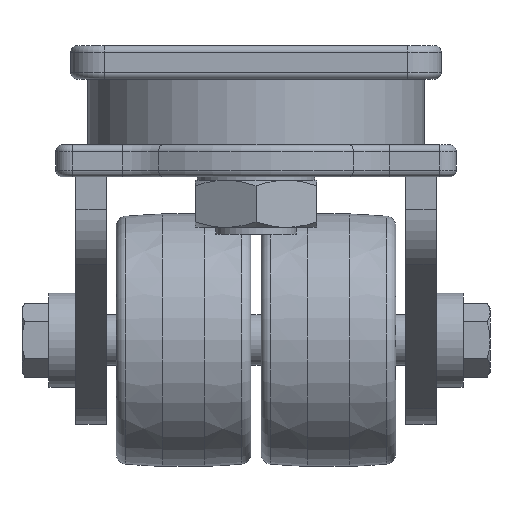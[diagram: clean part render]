
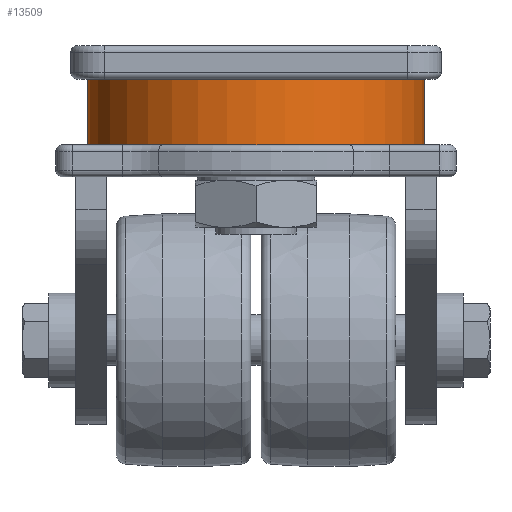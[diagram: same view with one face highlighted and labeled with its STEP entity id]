
A CAD part, left-side view. The second image highlights one B-rep face of the part: STEP entity #13509.
In plain terms, the highlighted cylindrical face has radius 50 mm (diameter 100 mm), a full revolution.
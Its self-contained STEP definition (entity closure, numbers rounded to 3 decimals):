
#13273=CARTESIAN_POINT('',(50.,0.,5.5));
#13274=VERTEX_POINT('',#13273);
#13275=CARTESIAN_POINT('',(49.877,-3.5,9.));
#13276=VERTEX_POINT('',#13275);
#13277=CARTESIAN_POINT('',(50.,0.,5.5));
#13278=CARTESIAN_POINT('',(50.,-0.44,5.5));
#13279=CARTESIAN_POINT('',(49.994,-0.908,5.588));
#13280=CARTESIAN_POINT('',(49.97,-1.771,5.945));
#13281=CARTESIAN_POINT('',(49.954,-2.164,6.214));
#13282=CARTESIAN_POINT('',(49.923,-2.786,6.836));
#13283=CARTESIAN_POINT('',(49.907,-3.055,7.229));
#13284=CARTESIAN_POINT('',(49.884,-3.412,8.092));
#13285=CARTESIAN_POINT('',(49.877,-3.5,8.56));
#13286=CARTESIAN_POINT('',(49.877,-3.5,9.));
#13287=B_SPLINE_CURVE_WITH_KNOTS('',3,(#13277,#13278,#13279,#13280,#13281,#13282,#13283,#13284,#13285,#13286),.UNSPECIFIED.,.F.,.U.,(4,2,2,2,4),(-0.528,-0.396,-0.264,-0.132,0.0),.UNSPECIFIED.);
#13288=EDGE_CURVE('',#13274,#13276,#13287,.T.);
#13290=CARTESIAN_POINT('',(49.877,3.5,9.));
#13291=VERTEX_POINT('',#13290);
#13292=CARTESIAN_POINT('',(49.877,3.5,9.));
#13293=CARTESIAN_POINT('',(49.877,3.5,8.56));
#13294=CARTESIAN_POINT('',(49.884,3.412,8.092));
#13295=CARTESIAN_POINT('',(49.907,3.055,7.229));
#13296=CARTESIAN_POINT('',(49.923,2.786,6.836));
#13297=CARTESIAN_POINT('',(49.954,2.164,6.214));
#13298=CARTESIAN_POINT('',(49.97,1.771,5.945));
#13299=CARTESIAN_POINT('',(49.994,0.908,5.588));
#13300=CARTESIAN_POINT('',(50.,0.44,5.5));
#13301=CARTESIAN_POINT('',(50.,0.,5.5));
#13302=B_SPLINE_CURVE_WITH_KNOTS('',3,(#13292,#13293,#13294,#13295,#13296,#13297,#13298,#13299,#13300,#13301),.UNSPECIFIED.,.F.,.U.,(4,2,2,2,4),(-1.055,-0.923,-0.791,-0.659,-0.528),.UNSPECIFIED.);
#13303=EDGE_CURVE('',#13291,#13274,#13302,.T.);
#13305=CARTESIAN_POINT('',(50.,0.,12.5));
#13306=VERTEX_POINT('',#13305);
#13307=CARTESIAN_POINT('',(50.,0.,12.5));
#13308=CARTESIAN_POINT('',(50.,0.44,12.5));
#13309=CARTESIAN_POINT('',(49.994,0.908,12.412));
#13310=CARTESIAN_POINT('',(49.97,1.771,12.055));
#13311=CARTESIAN_POINT('',(49.954,2.164,11.786));
#13312=CARTESIAN_POINT('',(49.923,2.786,11.164));
#13313=CARTESIAN_POINT('',(49.907,3.055,10.771));
#13314=CARTESIAN_POINT('',(49.884,3.412,9.908));
#13315=CARTESIAN_POINT('',(49.877,3.5,9.44));
#13316=CARTESIAN_POINT('',(49.877,3.5,9.));
#13317=B_SPLINE_CURVE_WITH_KNOTS('',3,(#13307,#13308,#13309,#13310,#13311,#13312,#13313,#13314,#13315,#13316),.UNSPECIFIED.,.F.,.U.,(4,2,2,2,4),(0.528,0.659,0.791,0.923,1.055),.UNSPECIFIED.);
#13318=EDGE_CURVE('',#13306,#13291,#13317,.T.);
#13320=CARTESIAN_POINT('',(49.877,-3.5,9.));
#13321=CARTESIAN_POINT('',(49.877,-3.5,9.44));
#13322=CARTESIAN_POINT('',(49.884,-3.412,9.908));
#13323=CARTESIAN_POINT('',(49.907,-3.055,10.771));
#13324=CARTESIAN_POINT('',(49.923,-2.786,11.164));
#13325=CARTESIAN_POINT('',(49.954,-2.164,11.786));
#13326=CARTESIAN_POINT('',(49.97,-1.771,12.055));
#13327=CARTESIAN_POINT('',(49.994,-0.908,12.412));
#13328=CARTESIAN_POINT('',(50.,-0.44,12.5));
#13329=CARTESIAN_POINT('',(50.,0.,12.5));
#13330=B_SPLINE_CURVE_WITH_KNOTS('',3,(#13320,#13321,#13322,#13323,#13324,#13325,#13326,#13327,#13328,#13329),.UNSPECIFIED.,.F.,.U.,(4,2,2,2,4),(0.0,0.132,0.264,0.396,0.528),.UNSPECIFIED.);
#13331=EDGE_CURVE('',#13276,#13306,#13330,.T.);
#13476=CARTESIAN_POINT('',(0.0,0.,13.25));
#13477=DIRECTION('',(0.0,0.0,1.0));
#13478=DIRECTION('',(1.0,0.0,0.0));
#13479=AXIS2_PLACEMENT_3D('',#13476,#13477,#13478);
#13480=CYLINDRICAL_SURFACE('',#13479,50.);
#13481=CARTESIAN_POINT('',(50.,0.,-1.5));
#13482=VERTEX_POINT('',#13481);
#13483=CARTESIAN_POINT('',(0.0,0.,-1.5));
#13484=DIRECTION('',(0.0,0.0,1.0));
#13485=DIRECTION('',(1.0,0.0,0.0));
#13486=AXIS2_PLACEMENT_3D('',#13483,#13484,#13485);
#13487=CIRCLE('',#13486,50.);
#13488=EDGE_CURVE('',#13482,#13482,#13487,.T.);
#13489=ORIENTED_EDGE('',*,*,#13488,.T.);
#13490=EDGE_LOOP('',(#13489));
#13491=FACE_OUTER_BOUND('',#13490,.T.);
#13492=ORIENTED_EDGE('',*,*,#13288,.T.);
#13493=ORIENTED_EDGE('',*,*,#13331,.T.);
#13494=ORIENTED_EDGE('',*,*,#13318,.T.);
#13495=ORIENTED_EDGE('',*,*,#13303,.T.);
#13496=EDGE_LOOP('',(#13492,#13493,#13494,#13495));
#13497=FACE_BOUND('',#13496,.T.);
#13498=CARTESIAN_POINT('',(-50.,0.,18.));
#13499=VERTEX_POINT('',#13498);
#13500=CARTESIAN_POINT('',(0.0,0.,18.));
#13501=DIRECTION('',(0.0,0.0,-1.0));
#13502=DIRECTION('',(1.0,0.0,0.0));
#13503=AXIS2_PLACEMENT_3D('',#13500,#13501,#13502);
#13504=CIRCLE('',#13503,50.);
#13505=EDGE_CURVE('',#13499,#13499,#13504,.T.);
#13506=ORIENTED_EDGE('',*,*,#13505,.T.);
#13507=EDGE_LOOP('',(#13506));
#13508=FACE_BOUND('',#13507,.T.);
#13509=ADVANCED_FACE('',(#13491,#13497,#13508),#13480,.T.);
